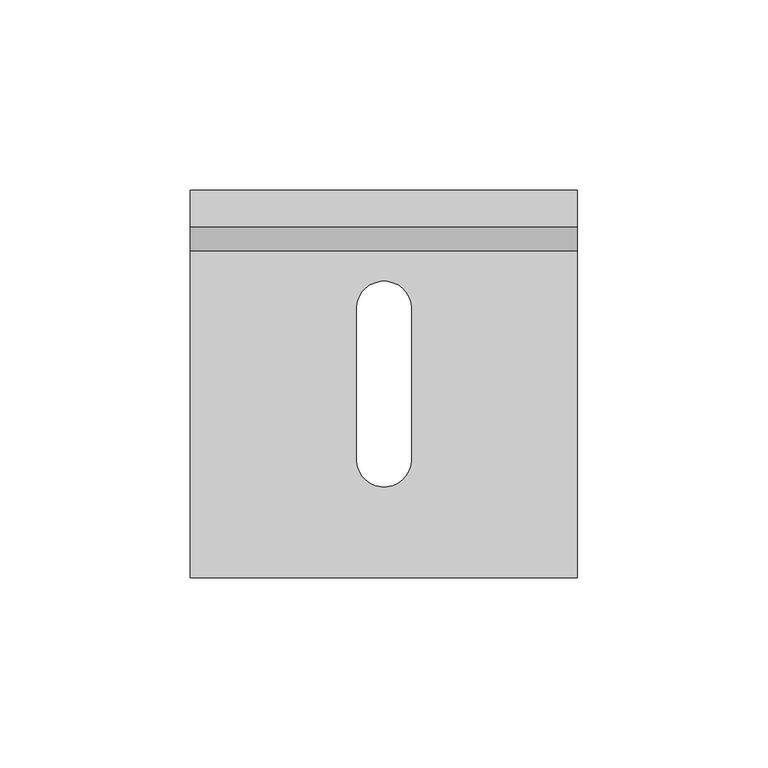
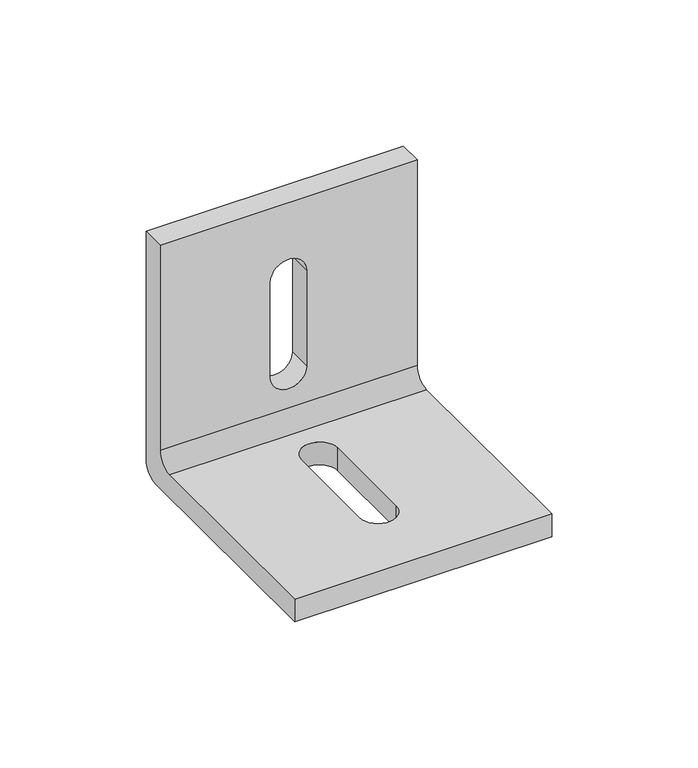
"""IFC4 building model written with IfcOpenShell, lengths in millimetres: proxy geometry, 14NSF-A54 : 14NSF-A54."""

from ifc_helpers import new_model, si_unit, frame, origin, place, context, project, spatial, polyline, circle_curve, source, transform, mapped, element, save
from ifc_brep_helpers import plane_surface, cylinder_surface, revolved_surface, advanced_brep


def generic_models_b58da347(model_context):
    return source(origin(), model_context, "Body", "AdvancedBrep", [
        advanced_brep(
        [(50.8, -101.6, 0.0), (50.8, -6.35, 0.0), (50.8, 0.0, 6.35), (50.8, 0.0, 101.6), (50.8, -9.525, 101.6), (50.8, -9.525, 15.875), (50.8, -15.875, 9.525), (50.8, -101.6, 9.525), (-50.8, -6.35, 0.0), (-50.8, -101.6, 0.0), (-50.8, -101.6, 9.525), (-50.8, -15.875, 9.525), (-50.8, -9.525, 15.875), (-50.8, -9.525, 101.6), (-50.8, 0.0, 101.6), (-50.8, 0.0, 6.35), (7.14375, -70.6499249, 0.0), (7.14375, -30.9500751, 0.0), (-7.14375, -30.9500751, 0.0), (-7.14375, -70.6499249, 0.0), (7.14375, 0.0, 30.9500751), (7.14375, 0.0, 70.6499249), (-7.14375, 0.0, 70.6499249), (-7.14375, 0.0, 30.9500751), (7.14375, -9.525, 70.6499249), (7.14375, -9.525, 30.9500751), (-7.14375, -9.525, 30.9500751), (-7.14375, -9.525, 70.6499249), (7.14375, -30.9500751, 9.525), (7.14375, -70.6499249, 9.525), (-7.14375, -70.6499249, 9.525), (-7.14375, -30.9500751, 9.525)],
        [
            (0, 1),
            (1, 2, circle_curve(frame((50.8, -6.35, 6.35), z_axis=(1.0, 0.0, 0.0), x_axis=(0.0, 1.0, 0.0)), 6.35)),
            (2, 3),
            (3, 4),
            (4, 5),
            (5, 6, circle_curve(frame((50.8, -15.875, 15.875), z_axis=(-1.0, 0.0, 0.0), x_axis=(0.0, 1.0, 0.0)), 6.35)),
            (6, 7),
            (7, 0),
            (8, 9),
            (9, 10),
            (10, 11),
            (11, 12, circle_curve(frame((-50.8, -15.875, 15.875), z_axis=(1.0, 0.0, 0.0), x_axis=(0.0, 1.0, 0.0)), 6.35)),
            (12, 13),
            (13, 14),
            (14, 15),
            (15, 8, circle_curve(frame((-50.8, -6.35, 6.35), z_axis=(-1.0, 0.0, 0.0), x_axis=(0.0, 1.0, 0.0)), 6.35)),
            (0, 9),
            (8, 1),
            (16, 17),
            (17, 18, circle_curve(frame((0.0, -30.9500751, 0.0), z_axis=(0.0, 0.0, 1.0), x_axis=(1.0, 0.0, 0.0)), 7.14375)),
            (18, 19),
            (19, 16, circle_curve(frame((0.0, -70.6499249, 0.0), z_axis=(0.0, 0.0, 1.0), x_axis=(1.0, 0.0, 0.0)), 7.14375)),
            (15, 2),
            (14, 3),
            (20, 21),
            (21, 22, circle_curve(frame((0.0, 0.0, 70.6499249), z_axis=(0.0, -1.0, 0.0), x_axis=(1.0, 0.0, 0.0)), 7.14375)),
            (22, 23),
            (23, 20, circle_curve(frame((0.0, 0.0, 30.9500751), z_axis=(0.0, -1.0, 0.0), x_axis=(1.0, 0.0, 0.0)), 7.14375)),
            (13, 4),
            (12, 5),
            (24, 25),
            (25, 26, circle_curve(frame((0.0, -9.525, 30.9500751), z_axis=(0.0, 1.0, 0.0), x_axis=(1.0, 0.0, 0.0)), 7.14375)),
            (26, 27),
            (27, 24, circle_curve(frame((0.0, -9.525, 70.6499249), z_axis=(0.0, 1.0, 0.0), x_axis=(1.0, 0.0, 0.0)), 7.14375)),
            (11, 6),
            (10, 7),
            (28, 29),
            (29, 30, circle_curve(frame((0.0, -70.6499249, 9.525), z_axis=(0.0, 0.0, -1.0), x_axis=(1.0, 0.0, 0.0)), 7.14375)),
            (30, 31),
            (31, 28, circle_curve(frame((0.0, -30.9500751, 9.525), z_axis=(0.0, 0.0, -1.0), x_axis=(1.0, 0.0, 0.0)), 7.14375)),
            (16, 29),
            (28, 17),
            (31, 18),
            (30, 19),
            (20, 25),
            (24, 21),
            (27, 22),
            (26, 23),
        ],
        [
            plane_surface(frame((50.8, -6.35, 0.0), z_axis=(1.0, 0.0, 0.0), x_axis=(0.0, 1.0, 0.0))),
            plane_surface(frame((-50.8, -6.35, 0.0), z_axis=(-1.0, 0.0, 0.0), x_axis=(0.0, -1.0, 0.0))),
            plane_surface(frame((50.8, -101.6, 0.0), z_axis=(0.0, 0.0, -1.0), x_axis=(-1.0, 0.0, 0.0))),
            cylinder_surface(frame((-50.8, -6.35, 6.35), z_axis=(1.0, 0.0, 0.0), x_axis=(0.0, 1.0, 0.0)), 6.35),
            plane_surface(frame((50.8, 0.0, 6.35), z_axis=(0.0, 1.0, 0.0), x_axis=(-1.0, 0.0, 0.0))),
            plane_surface(frame((50.8, 0.0, 101.6), z_axis=(0.0, 0.0, 1.0), x_axis=(-1.0, 0.0, 0.0))),
            plane_surface(frame((50.8, -9.525, 101.6), z_axis=(0.0, -1.0, 0.0), x_axis=(-1.0, 0.0, 0.0))),
            revolved_surface(polyline([(-50.8, -9.525, 15.875), (50.8, -9.525, 15.875)]), (-50.8, -15.875, 15.875), (-1.0, 0.0, 0.0)),
            plane_surface(frame((50.8, -15.875, 9.525), z_axis=(0.0, 0.0, 1.0), x_axis=(-1.0, 0.0, 0.0))),
            plane_surface(frame((50.8, -101.6, 9.525), z_axis=(0.0, -1.0, 0.0), x_axis=(-1.0, 0.0, 0.0))),
            plane_surface(frame((7.14375, -70.6499249, 12.7), z_axis=(-1.0, 0.0, 0.0), x_axis=(0.0, 0.0, -1.0))),
            revolved_surface(polyline([(7.14375, -30.9500751, 9.525), (7.14375, -30.9500751, 0.0)]), (0.0, -30.9500751, 0.0), (0.0, 0.0, 1.0)),
            plane_surface(frame((-7.14375, -30.9500751, 12.7), z_axis=(1.0, 0.0, 0.0), x_axis=(0.0, 0.0, -1.0))),
            revolved_surface(polyline([(7.14375, -70.6499249, 9.525), (7.14375, -70.6499249, 0.0)]), (0.0, -70.6499249, 0.0), (0.0, 0.0, 1.0)),
            plane_surface(frame((7.14375, -12.7, 30.9500751), z_axis=(-1.0, 0.0, 0.0), x_axis=(0.0, 1.0, 0.0))),
            revolved_surface(polyline([(7.14375, -9.525, 70.6499249), (7.14375, 0.0, 70.6499249)]), (0.0, 0.0, 70.6499249), (0.0, -1.0, 0.0)),
            plane_surface(frame((-7.14375, -12.7, 70.6499249), z_axis=(1.0, 0.0, 0.0), x_axis=(0.0, 1.0, 0.0))),
            revolved_surface(polyline([(7.14375, -9.525, 30.9500751), (7.14375, 0.0, 30.9500751)]), (0.0, 0.0, 30.9500751), (0.0, -1.0, 0.0)),
        ],
        [
            (0, [[1, 2, 3, 4, 5, 6, 7, 8]]),
            (1, [[9, 10, 11, 12, 13, 14, 15, 16]]),
            (2, [[-1, 17, -9, 18], [19, 20, 21, 22]]),
            (3, [[-2, -18, -16, 23]]),
            (4, [[-3, -23, -15, 24], [25, 26, 27, 28]]),
            (5, [[-4, -24, -14, 29]]),
            (6, [[-5, -29, -13, 30], [31, 32, 33, 34]]),
            (7, [[-6, -30, -12, 35]]),
            (8, [[-7, -35, -11, 36], [37, 38, 39, 40]]),
            (9, [[-8, -36, -10, -17]]),
            (10, [[-19, 41, -37, 42]]),
            (11, [[-20, -42, -40, 43]]),
            (12, [[-21, -43, -39, 44]]),
            (13, [[-22, -44, -38, -41]]),
            (14, [[45, -31, 46, -25]]),
            (15, [[-46, -34, 47, -26]]),
            (16, [[-47, -33, 48, -27]]),
            (17, [[-45, -28, -48, -32]]),
        ],
    ),
    ])


if __name__ == "__main__":
    model = new_model("IFC4")
    model_context = context("Model", 3, world=origin())
    ifc_project = project(units=[si_unit("LENGTHUNIT", "METRE", prefix="MILLI")], contexts=[model_context])
    site = spatial("IfcSite", under=ifc_project)
    building = spatial("IfcBuilding", under=site)
    placement = place(None, origin())
    generic_models_shape = generic_models_b58da347(model_context)
    element("IfcBuildingElementProxy", 1, Name="14NSF-A54 : 14NSF-A54", ObjectType="14NSF-A54 : 14NSF-A54", at=placement, inside=building, context=model_context, shape_type="MappedRepresentation", body=[
        mapped(generic_models_shape, transform((0.0, 0.0, 0.0), x_axis=(1.0, 0.0, 0.0), y_axis=(0.0, 1.0, 0.0), z_axis=(0.0, 0.0, 1.0))),
    ])
    save(model, "model.ifc")
